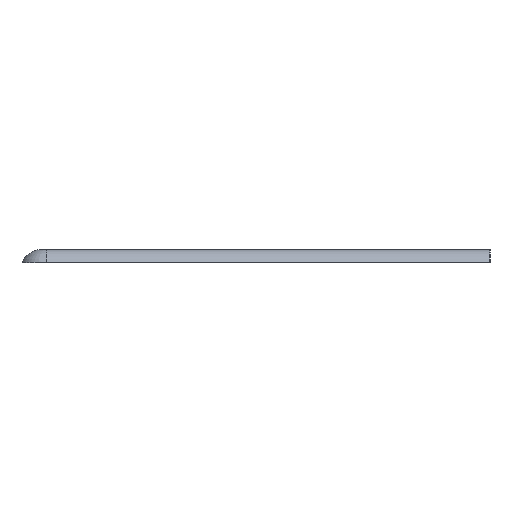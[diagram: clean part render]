
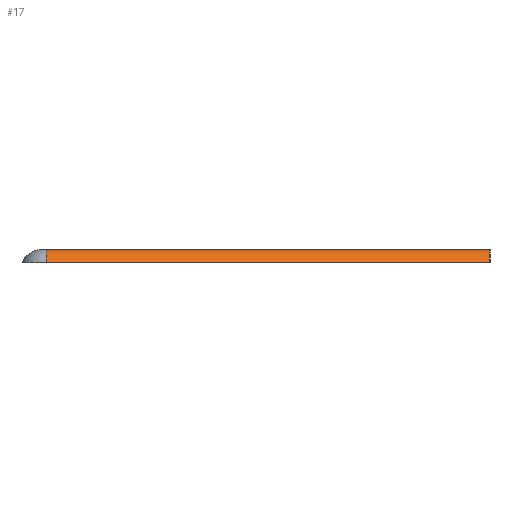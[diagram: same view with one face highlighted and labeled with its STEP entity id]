
A CAD part, left-side view. The second image highlights one B-rep face of the part: STEP entity #17.
In plain terms, the highlighted cylindrical face has radius 4 mm (diameter 8 mm), a partial arc.
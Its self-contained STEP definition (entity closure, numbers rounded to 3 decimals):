
#17 = ADVANCED_FACE('',(#18),#32,.T.);
#18 = FACE_BOUND('',#19,.T.);
#19 = EDGE_LOOP('',(#20,#55,#92,#118));
#20 = ORIENTED_EDGE('',*,*,#21,.F.);
#21 = EDGE_CURVE('',#22,#24,#26,.T.);
#22 = VERTEX_POINT('',#23);
#23 = CARTESIAN_POINT('',(4.,275.,55.));
#24 = VERTEX_POINT('',#25);
#25 = CARTESIAN_POINT('',(4.,190.2,55.));
#26 = SURFACE_CURVE('',#27,(#31,#43),.PCURVE_S1.);
#27 = LINE('',#28,#29);
#28 = CARTESIAN_POINT('',(4.,275.,55.));
#29 = VECTOR('',#30,1.);
#30 = DIRECTION('',(-0.,-1.,-0.));
#31 = PCURVE('',#32,#37);
#32 = CYLINDRICAL_SURFACE('',#33,4.);
#33 = AXIS2_PLACEMENT_3D('',#34,#35,#36);
#34 = CARTESIAN_POINT('',(4.,275.,51.));
#35 = DIRECTION('',(-0.,-1.,-0.));
#36 = DIRECTION('',(0.,0.,1.));
#37 = DEFINITIONAL_REPRESENTATION('',(#38),#42);
#38 = LINE('',#39,#40);
#39 = CARTESIAN_POINT('',(0.,0.));
#40 = VECTOR('',#41,1.);
#41 = DIRECTION('',(0.,1.));
#42 = ( GEOMETRIC_REPRESENTATION_CONTEXT(2) 
PARAMETRIC_REPRESENTATION_CONTEXT() REPRESENTATION_CONTEXT('2D SPACE',''
  ) );
#43 = PCURVE('',#44,#49);
#44 = PLANE('',#45);
#45 = AXIS2_PLACEMENT_3D('',#46,#47,#48);
#46 = CARTESIAN_POINT('',(0.,0.,55.));
#47 = DIRECTION('',(0.,0.,1.));
#48 = DIRECTION('',(1.,0.,0.));
#49 = DEFINITIONAL_REPRESENTATION('',(#50),#54);
#50 = LINE('',#51,#52);
#51 = CARTESIAN_POINT('',(4.,275.));
#52 = VECTOR('',#53,1.);
#53 = DIRECTION('',(-0.,-1.));
#54 = ( GEOMETRIC_REPRESENTATION_CONTEXT(2) 
PARAMETRIC_REPRESENTATION_CONTEXT() REPRESENTATION_CONTEXT('2D SPACE',''
  ) );
#55 = ORIENTED_EDGE('',*,*,#56,.T.);
#56 = EDGE_CURVE('',#22,#57,#59,.T.);
#57 = VERTEX_POINT('',#58);
#58 = CARTESIAN_POINT('',(0.292,275.,52.5));
#59 = SURFACE_CURVE('',#60,(#65,#71),.PCURVE_S1.);
#60 = CIRCLE('',#61,4.);
#61 = AXIS2_PLACEMENT_3D('',#62,#63,#64);
#62 = CARTESIAN_POINT('',(4.,275.,51.));
#63 = DIRECTION('',(0.,-1.,0.));
#64 = DIRECTION('',(-1.,0.,0.));
#65 = PCURVE('',#32,#66);
#66 = DEFINITIONAL_REPRESENTATION('',(#67),#70);
#67 = B_SPLINE_CURVE_WITH_KNOTS('',1,(#68,#69),.UNSPECIFIED.,.F.,.F.,(2,
    2),(4.712,6.283),.PIECEWISE_BEZIER_KNOTS.);
#68 = CARTESIAN_POINT('',(0.,0.));
#69 = CARTESIAN_POINT('',(1.571,0.));
#70 = ( GEOMETRIC_REPRESENTATION_CONTEXT(2) 
PARAMETRIC_REPRESENTATION_CONTEXT() REPRESENTATION_CONTEXT('2D SPACE',''
  ) );
#71 = PCURVE('',#72,#87);
#72 = SURFACE_OF_REVOLUTION('',#73,#84);
#73 = B_SPLINE_CURVE_WITH_KNOTS('',5,(#74,#75,#76,#77,#78,#79,#80,#81,
    #82,#83),.UNSPECIFIED.,.F.,.F.,(6,4,6),(4.712,
    5.306,5.899),.UNSPECIFIED.);
#74 = CARTESIAN_POINT('',(5.,276.,55.));
#75 = CARTESIAN_POINT('',(5.,276.475,55.));
#76 = CARTESIAN_POINT('',(5.,276.949,54.93));
#77 = CARTESIAN_POINT('',(5.,277.41,54.789));
#78 = CARTESIAN_POINT('',(5.,277.843,54.582));
#79 = CARTESIAN_POINT('',(5.,278.63,54.051));
#80 = CARTESIAN_POINT('',(5.,278.984,53.728));
#81 = CARTESIAN_POINT('',(5.,279.287,53.353));
#82 = CARTESIAN_POINT('',(5.,279.53,52.94));
#83 = CARTESIAN_POINT('',(5.,279.708,52.5));
#84 = AXIS1_PLACEMENT('',#85,#86);
#85 = CARTESIAN_POINT('',(5.,275.,51.));
#86 = DIRECTION('',(-0.,-0.,-1.));
#87 = DEFINITIONAL_REPRESENTATION('',(#88),#91);
#88 = B_SPLINE_CURVE_WITH_KNOTS('',1,(#89,#90),.UNSPECIFIED.,.F.,.F.,(2,
    2),(4.712,6.283),.PIECEWISE_BEZIER_KNOTS.);
#89 = CARTESIAN_POINT('',(-1.571,4.712));
#90 = CARTESIAN_POINT('',(-1.571,6.283));
#91 = ( GEOMETRIC_REPRESENTATION_CONTEXT(2) 
PARAMETRIC_REPRESENTATION_CONTEXT() REPRESENTATION_CONTEXT('2D SPACE',''
  ) );
#92 = ORIENTED_EDGE('',*,*,#93,.T.);
#93 = EDGE_CURVE('',#57,#94,#96,.T.);
#94 = VERTEX_POINT('',#95);
#95 = CARTESIAN_POINT('',(0.292,190.2,52.5));
#96 = SURFACE_CURVE('',#97,(#101,#107),.PCURVE_S1.);
#97 = LINE('',#98,#99);
#98 = CARTESIAN_POINT('',(0.292,275.,52.5));
#99 = VECTOR('',#100,1.);
#100 = DIRECTION('',(-0.,-1.,-0.));
#101 = PCURVE('',#32,#102);
#102 = DEFINITIONAL_REPRESENTATION('',(#103),#106);
#103 = B_SPLINE_CURVE_WITH_KNOTS('',1,(#104,#105),.UNSPECIFIED.,.F.,.F.,
  (2,2),(0.,270.),.PIECEWISE_BEZIER_KNOTS.);
#104 = CARTESIAN_POINT('',(1.186,0.));
#105 = CARTESIAN_POINT('',(1.186,270.));
#106 = ( GEOMETRIC_REPRESENTATION_CONTEXT(2) 
PARAMETRIC_REPRESENTATION_CONTEXT() REPRESENTATION_CONTEXT('2D SPACE',''
  ) );
#107 = PCURVE('',#108,#113);
#108 = PLANE('',#109);
#109 = AXIS2_PLACEMENT_3D('',#110,#111,#112);
#110 = CARTESIAN_POINT('',(-1.,-1.,52.5));
#111 = DIRECTION('',(0.,0.,1.));
#112 = DIRECTION('',(1.,0.,0.));
#113 = DEFINITIONAL_REPRESENTATION('',(#114),#117);
#114 = B_SPLINE_CURVE_WITH_KNOTS('',1,(#115,#116),.UNSPECIFIED.,.F.,.F.,
  (2,2),(0.,270.),.PIECEWISE_BEZIER_KNOTS.);
#115 = CARTESIAN_POINT('',(1.292,276.));
#116 = CARTESIAN_POINT('',(1.292,6.));
#117 = ( GEOMETRIC_REPRESENTATION_CONTEXT(2) 
PARAMETRIC_REPRESENTATION_CONTEXT() REPRESENTATION_CONTEXT('2D SPACE',''
  ) );
#118 = ORIENTED_EDGE('',*,*,#119,.F.);
#119 = EDGE_CURVE('',#24,#94,#120,.T.);
#120 = SURFACE_CURVE('',#121,(#126,#133),.PCURVE_S1.);
#121 = CIRCLE('',#122,4.);
#122 = AXIS2_PLACEMENT_3D('',#123,#124,#125);
#123 = CARTESIAN_POINT('',(4.,190.2,51.));
#124 = DIRECTION('',(0.,-1.,0.));
#125 = DIRECTION('',(0.,0.,1.));
#126 = PCURVE('',#32,#127);
#127 = DEFINITIONAL_REPRESENTATION('',(#128),#132);
#128 = LINE('',#129,#130);
#129 = CARTESIAN_POINT('',(0.,84.8));
#130 = VECTOR('',#131,1.);
#131 = DIRECTION('',(1.,0.));
#132 = ( GEOMETRIC_REPRESENTATION_CONTEXT(2) 
PARAMETRIC_REPRESENTATION_CONTEXT() REPRESENTATION_CONTEXT('2D SPACE',''
  ) );
#133 = PCURVE('',#134,#139);
#134 = PLANE('',#135);
#135 = AXIS2_PLACEMENT_3D('',#136,#137,#138);
#136 = CARTESIAN_POINT('',(-1.,190.2,52.3));
#137 = DIRECTION('',(0.,1.,0.));
#138 = DIRECTION('',(0.,0.,1.));
#139 = DEFINITIONAL_REPRESENTATION('',(#140),#148);
#140 = ( BOUNDED_CURVE() B_SPLINE_CURVE(2,(#141,#142,#143,#144,#145,#146
,#147),.UNSPECIFIED.,.T.,.F.) B_SPLINE_CURVE_WITH_KNOTS((1,2,2,2,2,1),(
    -2.094,0.,2.094,4.189,6.283,
8.378),.UNSPECIFIED.) CURVE() GEOMETRIC_REPRESENTATION_ITEM() 
RATIONAL_B_SPLINE_CURVE((1.,0.5,1.,0.5,1.,0.5,1.)) REPRESENTATION_ITEM(
  '') );
#141 = CARTESIAN_POINT('',(2.7,5.));
#142 = CARTESIAN_POINT('',(2.7,-1.928));
#143 = CARTESIAN_POINT('',(-3.3,1.536));
#144 = CARTESIAN_POINT('',(-9.3,5.));
#145 = CARTESIAN_POINT('',(-3.3,8.464));
#146 = CARTESIAN_POINT('',(2.7,11.928));
#147 = CARTESIAN_POINT('',(2.7,5.));
#148 = ( GEOMETRIC_REPRESENTATION_CONTEXT(2) 
PARAMETRIC_REPRESENTATION_CONTEXT() REPRESENTATION_CONTEXT('2D SPACE',''
  ) );
